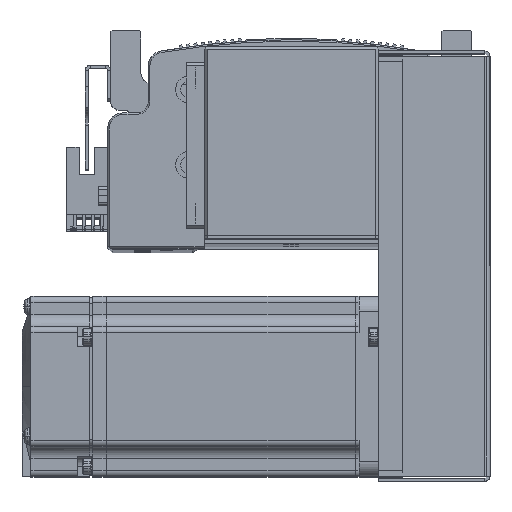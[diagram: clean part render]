
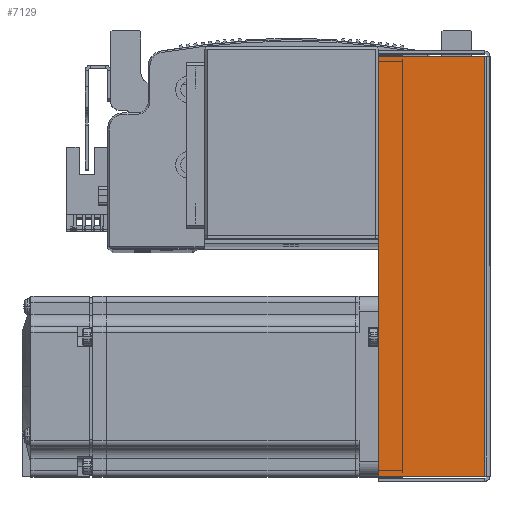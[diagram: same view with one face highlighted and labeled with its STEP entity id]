
A CAD part, top view. The second image highlights one B-rep face of the part: STEP entity #7129.
In plain terms, the highlighted planar face has unit normal (0, 0, 1).
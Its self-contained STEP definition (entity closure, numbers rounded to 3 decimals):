
#1814 = CARTESIAN_POINT ( 'NONE',  ( -69.793, 36., 33.5 ) ) ;
#1871 = CARTESIAN_POINT ( 'NONE',  ( 69.793, 36., 33.5 ) ) ;
#1891 = CARTESIAN_POINT ( 'NONE',  ( 69.793, 0.737, 33.5 ) ) ;
#1917 = CARTESIAN_POINT ( 'NONE',  ( -69.793, 0.737, 33.5 ) ) ;
#2472 = DIRECTION ( 'NONE',  ( 0., 1., 0. ) ) ;
#2479 = CARTESIAN_POINT ( 'NONE',  ( 69.793, 0., 33.5 ) ) ;
#2553 = DIRECTION ( 'NONE',  ( -1., 0., 0. ) ) ;
#2567 = CARTESIAN_POINT ( 'NONE',  ( 0., 36., 33.5 ) ) ;
#2631 = CARTESIAN_POINT ( 'NONE',  ( -69.793, 0., 33.5 ) ) ;
#2634 = DIRECTION ( 'NONE',  ( -1., 0., 0. ) ) ;
#2658 = DIRECTION ( 'NONE',  ( 0., 1., 0. ) ) ;
#2662 = CARTESIAN_POINT ( 'NONE',  ( -71.5, 0.737, 33.5 ) ) ;
#3192 = LINE ( 'NONE', #2479, #3222 ) ;
#3222 = VECTOR ( 'NONE', #2472, 1000. ) ;
#3288 = LINE ( 'NONE', #2631, #3369 ) ;
#3322 = VECTOR ( 'NONE', #2553, 1000. ) ;
#3343 = LINE ( 'NONE', #2567, #3322 ) ;
#3351 = VECTOR ( 'NONE', #2634, 1000. ) ;
#3369 = VECTOR ( 'NONE', #2658, 1000. ) ;
#3389 = LINE ( 'NONE', #2662, #3351 ) ;
#7129 = ADVANCED_FACE ( 'NONE', ( #75834 ), #77675, .F. ) ;
#20054 = VERTEX_POINT ( 'NONE', #1814 ) ;
#20164 = VERTEX_POINT ( 'NONE', #1871 ) ;
#20168 = VERTEX_POINT ( 'NONE', #1891 ) ;
#20193 = VERTEX_POINT ( 'NONE', #1917 ) ;
#24585 = EDGE_CURVE ( 'NONE', #20168, #20164, #3192, .T. ) ;
#24660 = EDGE_CURVE ( 'NONE', #20164, #20054, #3343, .T. ) ;
#24678 = EDGE_CURVE ( 'NONE', #20193, #20054, #3288, .T. ) ;
#24688 = EDGE_CURVE ( 'NONE', #20168, #20193, #3389, .T. ) ;
#30338 = EDGE_LOOP ( 'NONE', ( #35047, #35127, #35024, #35107 ) ) ;
#35024 = ORIENTED_EDGE ( 'NONE', *, *, #24660, .T. ) ;
#35047 = ORIENTED_EDGE ( 'NONE', *, *, #24688, .F. ) ;
#35107 = ORIENTED_EDGE ( 'NONE', *, *, #24678, .F. ) ;
#35127 = ORIENTED_EDGE ( 'NONE', *, *, #24585, .T. ) ;
#50902 = AXIS2_PLACEMENT_3D ( 'NONE', #77685, #77710, #77702 ) ;
#75834 = FACE_OUTER_BOUND ( 'NONE', #30338, .T. ) ;
#77675 = PLANE ( 'NONE',  #50902 ) ;
#77685 = CARTESIAN_POINT ( 'NONE',  ( 0., 0., 33.5 ) ) ;
#77702 = DIRECTION ( 'NONE',  ( -1., 0., 0. ) ) ;
#77710 = DIRECTION ( 'NONE',  ( 0., 0., -1. ) ) ;
